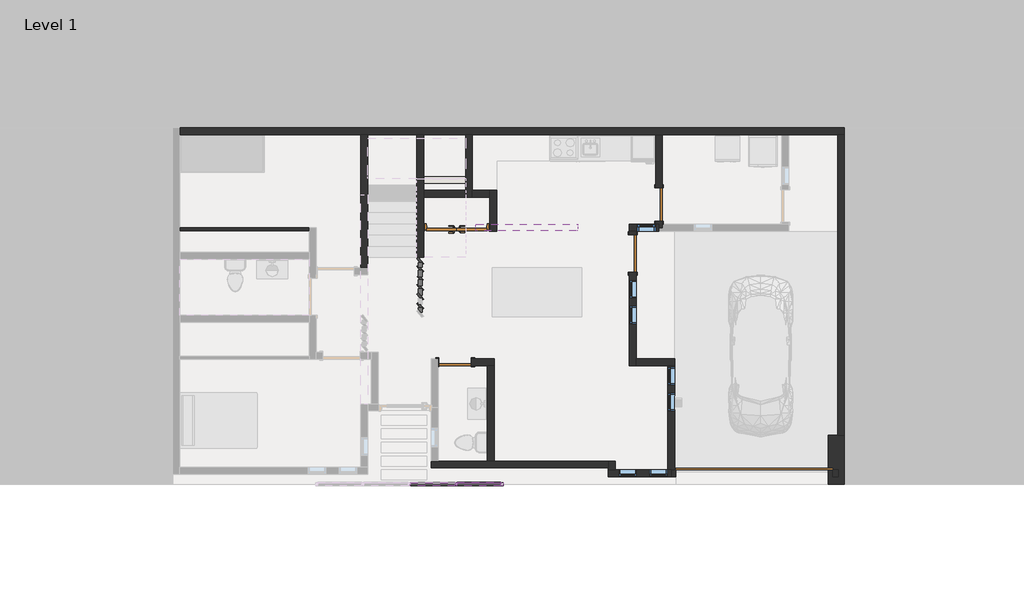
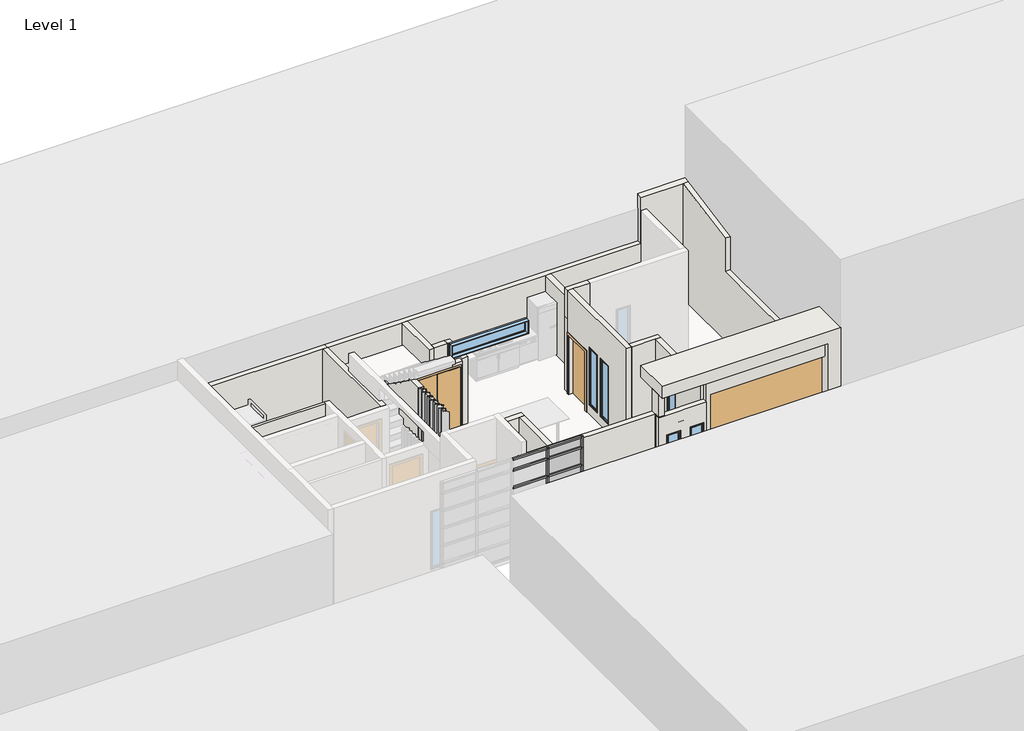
# One storey, part 2 of 3: 31 members, 23 walls, 11 plates, 8 windows, 5 doors.
"""IFC4 building model written with IfcOpenShell, lengths in millimetres."""

from ifc_helpers import new_model, si_unit, frame, origin, place, context, project, spatial, polyline, outline, extrude, faceted_brep, transform, mapped, element, save
from components import m_door_overhead_sectional_2400_x_2000mm_d75fed9d, m_door_passage_double_flush_1_50_45166c5d, m_single_flush_0813_x_2134mm_45de9fe4, m_single_flush_0915_x_2032mm_39b6ed43, m_single_flush_800_439f2f28, rectangular_mullion_45_1a2056f5, rectangular_mullion_50mm_x_150mm_d19166ad, rectangular_mullion_50mm_x_150mm_e900c828, rectangular_mullion_50mm_x_65mm_ff5aef03, rectangular_mullion_50mm_x_65mm_a82a1849, rectangular_mullion_50mm_x_65mm_891f7412, rectangular_mullion_50mm_x_65mm_8b285529, rectangular_mullion_50mm_x_65mm_56aac8fe, rectangular_mullion_50mm_x_65mm_799d5ca8, rectangular_mullion_50mm_x_65mm_d660201f, rectangular_mullion_50mm_x_65mm_3a6a0bf0, empty_system_panel_empty_7c5ddf91, empty_system_panel_empty_2b6e5872, empty_system_panel_empty_b25575e7, system_panel_glazed_61021ea4, system_panel_glazed_a4c32394, system_panel_glazed_e487c379, walls_1_walls_1_7c86b917, m_fixed_4c20de9f, m_fixed_e2bd5fef, m_fixed_2bd9e5b5

model = new_model("IFC4")

# Units and contexts
model_context = context("Model", 3, world=origin())
ifc_project = project(units=[si_unit("LENGTHUNIT", "METRE", prefix="MILLI")], contexts=[model_context])

# Site, building, storey
site = spatial("IfcSite", under=ifc_project)
building = spatial("IfcBuilding", under=site)
storey = spatial("IfcBuildingStorey", under=building, Name="Level 1", Elevation=180.0)

# Doors
placement = place(None, origin())
m_door_overhead_sectional_2400_x_2000mm_shape = m_door_overhead_sectional_2400_x_2000mm_d75fed9d(model_context)
element("IfcDoor", 1, ObjectType="M_Door-Overhead-Sectional : 2400 x 2000mm", at=placement, inside=storey, context=model_context, shape_type="MappedRepresentation", body=[
    mapped(m_door_overhead_sectional_2400_x_2000mm_shape, transform((7392.5516856, -5409.9818761, 180.0), x_axis=(-1.0, 0.0, 0.0), y_axis=(0.0, -1.0, 0.0), z_axis=(0.0, 0.0, 1.0))),
])
m_door_passage_double_flush_1_50_shape = m_door_passage_double_flush_1_50_45166c5d(model_context)
element("IfcDoor", 2, ObjectType="M_Door-Passage-Double-Flush : 1.50", at=placement, inside=storey, context=model_context, shape_type="MappedRepresentation", body=[
    mapped(m_door_passage_double_flush_1_50_shape, transform((84.8842801, 630.3681239, 180.0), x_axis=(1.0, 0.0, 0.0), y_axis=(0.0, 1.0, 0.0), z_axis=(0.0, 0.0, 1.0))),
])
m_single_flush_0813_x_2134mm_shape = m_single_flush_0813_x_2134mm_45de9fe4(model_context)
element("IfcDoor", 3, ObjectType="M_Single-Flush : 0813 x 2134mm", at=placement, inside=storey, context=model_context, shape_type="MappedRepresentation", body=[
    mapped(m_single_flush_0813_x_2134mm_shape, transform((5050.8624114, 1189.0181239, 180.0), x_axis=(0.0, -1.0, 0.0), y_axis=(1.0, 0.0, 0.0), z_axis=(0.0, 0.0, 1.0))),
])
m_single_flush_0915_x_2032mm_shape = m_single_flush_0915_x_2032mm_39b6ed43(model_context)
element("IfcDoor", 4, ObjectType="M_Single-Flush : 0915 x 2032mm", at=placement, inside=storey, context=model_context, shape_type="MappedRepresentation", body=[
    mapped(m_single_flush_0915_x_2032mm_shape, transform((4405.8624114, -13.4818761, 180.0), x_axis=(0.0, 1.0, 0.0), y_axis=(-1.0, 0.0, 0.0), z_axis=(0.0, 0.0, 1.0))),
])
m_single_flush_800_shape = m_single_flush_800_439f2f28(model_context)
element("IfcDoor", 5, ObjectType="M_Single-Flush : 800", at=placement, inside=storey, context=model_context, shape_type="MappedRepresentation", body=[
    mapped(m_single_flush_800_shape, transform((44.8842801, -2684.9818761, 180.0), x_axis=(-1.0, 0.0, 0.0), y_axis=(0.0, -1.0, 0.0), z_axis=(0.0, 0.0, 1.0))),
])

# Members
rectangular_mullion_45_shape = rectangular_mullion_45_1a2056f5(model_context)
element("IfcMember", 6, ObjectType="Rectangular Mullion : 45", at=placement, inside=storey, context=model_context, shape_type="MappedRepresentation", body=[
    mapped(rectangular_mullion_45_shape, transform((-815.1157199, -617.6485429, 180.0), x_axis=(0.0, -1.0, 0.0), y_axis=(-1.0, 0.0, 0.0), z_axis=(0.0, 0.0, -1.0))),
])
rectangular_mullion_50mm_x_150mm_shape = rectangular_mullion_50mm_x_150mm_d19166ad(model_context)
element("IfcMember", 7, ObjectType="Rectangular Mullion : 50mm x 150mm", at=placement, inside=storey, context=model_context, shape_type="MappedRepresentation", body=[
    mapped(rectangular_mullion_50mm_x_150mm_shape, transform((-815.1157199, -389.3152097, 180.0), x_axis=(0.0, -1.0, 0.0), y_axis=(-1.0, 0.0, 0.0), z_axis=(0.0, 0.0, -1.0))),
])
element("IfcMember", 8, ObjectType="Rectangular Mullion : 50mm x 150mm", at=placement, inside=storey, context=model_context, shape_type="MappedRepresentation", body=[
    mapped(rectangular_mullion_50mm_x_150mm_shape, transform((-815.1157199, -845.9818761, 180.0), x_axis=(0.0, -1.0, 0.0), y_axis=(-1.0, 0.0, 0.0), z_axis=(0.0, 0.0, -1.0))),
])
element("IfcMember", 9, ObjectType="Rectangular Mullion : 50mm x 150mm", at=placement, inside=storey, context=model_context, shape_type="MappedRepresentation", body=[
    mapped(rectangular_mullion_50mm_x_150mm_shape, transform((-815.1157199, -1074.3152094, 180.0), x_axis=(0.0, -1.0, 0.0), y_axis=(-1.0, 0.0, 0.0), z_axis=(0.0, 0.0, -1.0))),
])
element("IfcMember", 10, ObjectType="Rectangular Mullion : 50mm x 150mm", at=placement, inside=storey, context=model_context, shape_type="MappedRepresentation", body=[
    mapped(rectangular_mullion_50mm_x_150mm_shape, transform((-815.1157199, -1302.6485426, 180.0), x_axis=(0.0, -1.0, 0.0), y_axis=(-1.0, 0.0, 0.0), z_axis=(0.0, 0.0, -1.0))),
])
rectangular_mullion_50mm_x_150mm_2_shape = rectangular_mullion_50mm_x_150mm_e900c828(model_context)
element("IfcMember", 11, ObjectType="Rectangular Mullion : 50mm x 150mm", at=placement, inside=storey, context=model_context, shape_type="MappedRepresentation", body=[
    mapped(rectangular_mullion_50mm_x_150mm_2_shape, transform((-815.1157199, -160.9818761, 2560.0), x_axis=(0.0, 1.0, 0.0), y_axis=(-1.0, 0.0, 0.0), z_axis=(0.0, 0.0, 1.0))),
])
rectangular_mullion_50mm_x_65mm_shape = rectangular_mullion_50mm_x_65mm_ff5aef03(model_context)
element("IfcMember", 12, ObjectType="Rectangular Mullion : 50mm x 65mm", at=placement, inside=storey, context=model_context, shape_type="MappedRepresentation", body=[
    mapped(rectangular_mullion_50mm_x_65mm_shape, transform((1219.8842801, -5680.9818761, 180.0), x_axis=(1.0, 0.0, 0.0), y_axis=(0.0, -1.0, 0.0), z_axis=(0.0, 0.0, -1.0))),
])
element("IfcMember", 13, ObjectType="Rectangular Mullion : 50mm x 65mm", at=placement, inside=storey, context=model_context, shape_type="MappedRepresentation", body=[
    mapped(rectangular_mullion_50mm_x_65mm_shape, transform((1219.8842801, -5680.9818761, 780.0), x_axis=(1.0, 0.0, 0.0), y_axis=(0.0, -1.0, 0.0), z_axis=(0.0, 0.0, -1.0))),
])
element("IfcMember", 14, ObjectType="Rectangular Mullion : 50mm x 65mm", at=placement, inside=storey, context=model_context, shape_type="MappedRepresentation", body=[
    mapped(rectangular_mullion_50mm_x_65mm_shape, transform((1219.8842801, -5680.9818761, 1380.0), x_axis=(1.0, 0.0, 0.0), y_axis=(0.0, -1.0, 0.0), z_axis=(0.0, 0.0, -1.0))),
])
element("IfcMember", 15, ObjectType="Rectangular Mullion : 50mm x 65mm", at=placement, inside=storey, context=model_context, shape_type="MappedRepresentation", body=[
    mapped(rectangular_mullion_50mm_x_65mm_shape, transform((1219.8842801, -5680.9818761, 1980.0), x_axis=(1.0, 0.0, 0.0), y_axis=(0.0, -1.0, 0.0), z_axis=(0.0, 0.0, -1.0))),
])
element("IfcMember", 16, ObjectType="Rectangular Mullion : 50mm x 65mm", at=placement, inside=storey, context=model_context, shape_type="MappedRepresentation", body=[
    mapped(rectangular_mullion_50mm_x_65mm_shape, transform((1219.8842801, -5680.9818761, 2580.0), x_axis=(1.0, 0.0, 0.0), y_axis=(0.0, -1.0, 0.0), z_axis=(0.0, 0.0, -1.0))),
])
rectangular_mullion_50mm_x_65mm_2_shape = rectangular_mullion_50mm_x_65mm_a82a1849(model_context)
element("IfcMember", 17, ObjectType="Rectangular Mullion : 50mm x 65mm", at=placement, inside=storey, context=model_context, shape_type="MappedRepresentation", body=[
    mapped(rectangular_mullion_50mm_x_65mm_2_shape, transform((69.8842799, -5680.9818761, 180.0), x_axis=(1.0, 0.0, 0.0), y_axis=(0.0, -1.0, 0.0), z_axis=(0.0, 0.0, -1.0))),
])
element("IfcMember", 18, ObjectType="Rectangular Mullion : 50mm x 65mm", at=placement, inside=storey, context=model_context, shape_type="MappedRepresentation", body=[
    mapped(rectangular_mullion_50mm_x_65mm_2_shape, transform((69.8842799, -5680.9818761, 780.0), x_axis=(1.0, 0.0, 0.0), y_axis=(0.0, -1.0, 0.0), z_axis=(0.0, 0.0, -1.0))),
])
element("IfcMember", 19, ObjectType="Rectangular Mullion : 50mm x 65mm", at=placement, inside=storey, context=model_context, shape_type="MappedRepresentation", body=[
    mapped(rectangular_mullion_50mm_x_65mm_2_shape, transform((69.8842799, -5680.9818761, 1380.0), x_axis=(1.0, 0.0, 0.0), y_axis=(0.0, -1.0, 0.0), z_axis=(0.0, 0.0, -1.0))),
])
element("IfcMember", 20, ObjectType="Rectangular Mullion : 50mm x 65mm", at=placement, inside=storey, context=model_context, shape_type="MappedRepresentation", body=[
    mapped(rectangular_mullion_50mm_x_65mm_2_shape, transform((69.8842799, -5680.9818761, 1980.0), x_axis=(1.0, 0.0, 0.0), y_axis=(0.0, -1.0, 0.0), z_axis=(0.0, 0.0, -1.0))),
])
element("IfcMember", 21, ObjectType="Rectangular Mullion : 50mm x 65mm", at=placement, inside=storey, context=model_context, shape_type="MappedRepresentation", body=[
    mapped(rectangular_mullion_50mm_x_65mm_2_shape, transform((69.8842799, -5680.9818761, 2580.0), x_axis=(1.0, 0.0, 0.0), y_axis=(0.0, -1.0, 0.0), z_axis=(0.0, 0.0, -1.0))),
])
rectangular_mullion_50mm_x_65mm_3_shape = rectangular_mullion_50mm_x_65mm_891f7412(model_context)
element("IfcMember", 22, ObjectType="Rectangular Mullion : 50mm x 65mm", at=placement, inside=storey, context=model_context, shape_type="MappedRepresentation", body=[
    mapped(rectangular_mullion_50mm_x_65mm_3_shape, transform((69.8842799, -5680.9818761, 3180.0), x_axis=(1.0, 0.0, 0.0), y_axis=(0.0, -1.0, 0.0), z_axis=(0.0, 0.0, -1.0))),
])
rectangular_mullion_50mm_x_65mm_4_shape = rectangular_mullion_50mm_x_65mm_8b285529(model_context)
element("IfcMember", 23, ObjectType="Rectangular Mullion : 50mm x 65mm", at=placement, inside=storey, context=model_context, shape_type="MappedRepresentation", body=[
    mapped(rectangular_mullion_50mm_x_65mm_4_shape, transform((1219.8842801, -5680.9818761, 3180.0), x_axis=(1.0, 0.0, 0.0), y_axis=(0.0, -1.0, 0.0), z_axis=(0.0, 0.0, -1.0))),
])
rectangular_mullion_50mm_x_65mm_5_shape = rectangular_mullion_50mm_x_65mm_56aac8fe(model_context)
element("IfcMember", 24, ObjectType="Rectangular Mullion : 50mm x 65mm", at=placement, inside=storey, context=model_context, shape_type="MappedRepresentation", body=[
    mapped(rectangular_mullion_50mm_x_65mm_5_shape, transform((1169.8842801, -5680.9818761, 3574.3395716), x_axis=(0.0, 0.0, 1.0), y_axis=(0.0, -1.0, 0.0), z_axis=(1.0, 0.0, 0.0))),
])
element("IfcMember", 25, ObjectType="Rectangular Mullion : 50mm x 65mm", at=placement, inside=storey, context=model_context, shape_type="MappedRepresentation", body=[
    mapped(rectangular_mullion_50mm_x_65mm_5_shape, transform((94.8842799, -5680.9818761, 180.0), x_axis=(0.0, 0.0, -1.0), y_axis=(0.0, -1.0, 0.0), z_axis=(-1.0, 0.0, 0.0))),
])
rectangular_mullion_50mm_x_65mm_6_shape = rectangular_mullion_50mm_x_65mm_799d5ca8(model_context)
element("IfcMember", 26, ObjectType="Rectangular Mullion : 50mm x 65mm", at=placement, inside=storey, context=model_context, shape_type="MappedRepresentation", body=[
    mapped(rectangular_mullion_50mm_x_65mm_6_shape, transform((1169.8842801, -5680.9818761, 780.0), x_axis=(0.0, 0.0, 1.0), y_axis=(0.0, -1.0, 0.0), z_axis=(1.0, 0.0, 0.0))),
])
element("IfcMember", 27, ObjectType="Rectangular Mullion : 50mm x 65mm", at=placement, inside=storey, context=model_context, shape_type="MappedRepresentation", body=[
    mapped(rectangular_mullion_50mm_x_65mm_6_shape, transform((1169.8842801, -5680.9818761, 1380.0), x_axis=(0.0, 0.0, 1.0), y_axis=(0.0, -1.0, 0.0), z_axis=(1.0, 0.0, 0.0))),
])
element("IfcMember", 28, ObjectType="Rectangular Mullion : 50mm x 65mm", at=placement, inside=storey, context=model_context, shape_type="MappedRepresentation", body=[
    mapped(rectangular_mullion_50mm_x_65mm_6_shape, transform((1169.8842801, -5680.9818761, 1980.0), x_axis=(0.0, 0.0, 1.0), y_axis=(0.0, -1.0, 0.0), z_axis=(1.0, 0.0, 0.0))),
])
element("IfcMember", 29, ObjectType="Rectangular Mullion : 50mm x 65mm", at=placement, inside=storey, context=model_context, shape_type="MappedRepresentation", body=[
    mapped(rectangular_mullion_50mm_x_65mm_6_shape, transform((1169.8842801, -5680.9818761, 2580.0), x_axis=(0.0, 0.0, 1.0), y_axis=(0.0, -1.0, 0.0), z_axis=(1.0, 0.0, 0.0))),
])
element("IfcMember", 30, ObjectType="Rectangular Mullion : 50mm x 65mm", at=placement, inside=storey, context=model_context, shape_type="MappedRepresentation", body=[
    mapped(rectangular_mullion_50mm_x_65mm_6_shape, transform((1169.8842801, -5680.9818761, 3180.0), x_axis=(0.0, 0.0, 1.0), y_axis=(0.0, -1.0, 0.0), z_axis=(1.0, 0.0, 0.0))),
])
rectangular_mullion_50mm_x_65mm_7_shape = rectangular_mullion_50mm_x_65mm_d660201f(model_context)
element("IfcMember", 31, ObjectType="Rectangular Mullion : 50mm x 65mm", at=placement, inside=storey, context=model_context, shape_type="MappedRepresentation", body=[
    mapped(rectangular_mullion_50mm_x_65mm_7_shape, transform((44.8842799, -5680.9818761, 3574.3395716), x_axis=(0.0, 0.0, 1.0), y_axis=(0.0, -1.0, 0.0), z_axis=(1.0, 0.0, 0.0))),
])
rectangular_mullion_50mm_x_65mm_8_shape = rectangular_mullion_50mm_x_65mm_3a6a0bf0(model_context)
element("IfcMember", 32, ObjectType="Rectangular Mullion : 50mm x 65mm", at=placement, inside=storey, context=model_context, shape_type="MappedRepresentation", body=[
    mapped(rectangular_mullion_50mm_x_65mm_8_shape, transform((44.8842799, -5680.9818761, 780.0), x_axis=(0.0, 0.0, 1.0), y_axis=(0.0, -1.0, 0.0), z_axis=(1.0, 0.0, 0.0))),
])
element("IfcMember", 33, ObjectType="Rectangular Mullion : 50mm x 65mm", at=placement, inside=storey, context=model_context, shape_type="MappedRepresentation", body=[
    mapped(rectangular_mullion_50mm_x_65mm_8_shape, transform((44.8842799, -5680.9818761, 1380.0), x_axis=(0.0, 0.0, 1.0), y_axis=(0.0, -1.0, 0.0), z_axis=(1.0, 0.0, 0.0))),
])
element("IfcMember", 34, ObjectType="Rectangular Mullion : 50mm x 65mm", at=placement, inside=storey, context=model_context, shape_type="MappedRepresentation", body=[
    mapped(rectangular_mullion_50mm_x_65mm_8_shape, transform((44.8842799, -5680.9818761, 1980.0), x_axis=(0.0, 0.0, 1.0), y_axis=(0.0, -1.0, 0.0), z_axis=(1.0, 0.0, 0.0))),
])
element("IfcMember", 35, ObjectType="Rectangular Mullion : 50mm x 65mm", at=placement, inside=storey, context=model_context, shape_type="MappedRepresentation", body=[
    mapped(rectangular_mullion_50mm_x_65mm_8_shape, transform((44.8842799, -5680.9818761, 2580.0), x_axis=(0.0, 0.0, 1.0), y_axis=(0.0, -1.0, 0.0), z_axis=(1.0, 0.0, 0.0))),
])
element("IfcMember", 36, ObjectType="Rectangular Mullion : 50mm x 65mm", at=placement, inside=storey, context=model_context, shape_type="MappedRepresentation", body=[
    mapped(rectangular_mullion_50mm_x_65mm_8_shape, transform((44.8842799, -5680.9818761, 3180.0), x_axis=(0.0, 0.0, 1.0), y_axis=(0.0, -1.0, 0.0), z_axis=(1.0, 0.0, 0.0))),
])

# Plates
empty_system_panel_empty_shape = empty_system_panel_empty_7c5ddf91(model_context)
element("IfcPlate", 37, ObjectType="Empty System Panel : Empty", at=placement, inside=storey, context=model_context, shape_type="MappedRepresentation", body=[
    mapped(empty_system_panel_empty_shape, transform((-815.1157199, -294.5950908, 180.0), x_axis=(0.0, -1.0, 0.0), y_axis=(1.0, 0.0, 0.0), z_axis=(0.0, 0.0, 1.0))),
])
element("IfcPlate", 38, ObjectType="Empty System Panel : Empty", at=placement, inside=storey, context=model_context, shape_type="MappedRepresentation", body=[
    mapped(empty_system_panel_empty_shape, transform((-815.1157199, -1397.3686615, 180.0), x_axis=(0.0, -1.0, 0.0), y_axis=(1.0, 0.0, 0.0), z_axis=(0.0, 0.0, 1.0))),
])
empty_system_panel_empty_2_shape = empty_system_panel_empty_2b6e5872(model_context)
element("IfcPlate", 39, ObjectType="Empty System Panel : Empty", at=placement, inside=storey, context=model_context, shape_type="MappedRepresentation", body=[
    mapped(empty_system_panel_empty_2_shape, transform((-815.1157199, -505.2507546, 180.0), x_axis=(0.0, -1.0, 0.0), y_axis=(1.0, 0.0, 0.0), z_axis=(0.0, 0.0, 1.0))),
])
element("IfcPlate", 40, ObjectType="Empty System Panel : Empty", at=placement, inside=storey, context=model_context, shape_type="MappedRepresentation", body=[
    mapped(empty_system_panel_empty_2_shape, transform((-815.1157199, -730.0463312, 180.0), x_axis=(0.0, -1.0, 0.0), y_axis=(1.0, 0.0, 0.0), z_axis=(0.0, 0.0, 1.0))),
])
empty_system_panel_empty_3_shape = empty_system_panel_empty_b25575e7(model_context)
element("IfcPlate", 41, ObjectType="Empty System Panel : Empty", at=placement, inside=storey, context=model_context, shape_type="MappedRepresentation", body=[
    mapped(empty_system_panel_empty_3_shape, transform((-815.1157199, -960.1485428, 180.0), x_axis=(0.0, -1.0, 0.0), y_axis=(1.0, 0.0, 0.0), z_axis=(0.0, 0.0, 1.0))),
])
system_panel_glazed_shape = system_panel_glazed_61021ea4(model_context)
element("IfcPlate", 42, ObjectType="System Panel : Glazed", at=placement, inside=storey, context=model_context, shape_type="MappedRepresentation", body=[
    mapped(system_panel_glazed_shape, transform((632.38428, -5680.9818761, 230.0), x_axis=(1.0, 0.0, 0.0), y_axis=(0.0, 1.0, 0.0), z_axis=(0.0, 0.0, 1.0))),
])
system_panel_glazed_2_shape = system_panel_glazed_a4c32394(model_context)
element("IfcPlate", 43, ObjectType="System Panel : Glazed", at=placement, inside=storey, context=model_context, shape_type="MappedRepresentation", body=[
    mapped(system_panel_glazed_2_shape, transform((632.38428, -5680.9818761, 805.0), x_axis=(1.0, 0.0, 0.0), y_axis=(0.0, 1.0, 0.0), z_axis=(0.0, 0.0, 1.0))),
])
element("IfcPlate", 44, ObjectType="System Panel : Glazed", at=placement, inside=storey, context=model_context, shape_type="MappedRepresentation", body=[
    mapped(system_panel_glazed_2_shape, transform((632.38428, -5680.9818761, 1405.0), x_axis=(1.0, 0.0, 0.0), y_axis=(0.0, 1.0, 0.0), z_axis=(0.0, 0.0, 1.0))),
])
element("IfcPlate", 45, ObjectType="System Panel : Glazed", at=placement, inside=storey, context=model_context, shape_type="MappedRepresentation", body=[
    mapped(system_panel_glazed_2_shape, transform((632.38428, -5680.9818761, 2005.0), x_axis=(1.0, 0.0, 0.0), y_axis=(0.0, 1.0, 0.0), z_axis=(0.0, 0.0, 1.0))),
])
element("IfcPlate", 46, ObjectType="System Panel : Glazed", at=placement, inside=storey, context=model_context, shape_type="MappedRepresentation", body=[
    mapped(system_panel_glazed_2_shape, transform((632.38428, -5680.9818761, 2605.0), x_axis=(1.0, 0.0, 0.0), y_axis=(0.0, 1.0, 0.0), z_axis=(0.0, 0.0, 1.0))),
])
system_panel_glazed_3_shape = system_panel_glazed_e487c379(model_context)
element("IfcPlate", 47, ObjectType="System Panel : Glazed", at=placement, inside=storey, context=model_context, shape_type="MappedRepresentation", body=[
    mapped(system_panel_glazed_3_shape, transform((632.38428, -5680.9818761, 3205.0), x_axis=(1.0, 0.0, 0.0), y_axis=(0.0, 1.0, 0.0), z_axis=(0.0, 0.0, 1.0))),
])

# Walls
element("IfcWall", 48, ObjectType="Generic - 170", at=placement, inside=storey, context=model_context, shape_type="Brep", body=[
    faceted_brep([(-6724.1375886, 2899.0181239, 180.0), (-2270.1157199, 2899.0181239, 180.0), (-2100.1157199, 2899.0181239, 180.0), (299.8842801, 2899.0181239, 180.0), (469.8842801, 2899.0181239, 180.0), (4965.8624114, 2899.0181239, 180.0), (5135.8624114, 2899.0181239, 180.0), (8065.8624114, 2899.0181239, 180.0), (8235.8624114, 2899.0181239, 180.0), (9435.8624114, 2899.0181239, 180.0), (9605.8624114, 2899.0181239, 180.0), (9605.8624114, 2899.0181239, 4150.8110252), (9435.8624114, 2899.0181239, 4150.8110252), (8065.8624114, 2899.0181239, 4150.8110252), (8065.8624114, 2899.0181239, 3700.0), (8065.8624114, 2899.0181239, 2560.0), (5135.8624114, 2899.0181239, 2560.0), (4965.8624114, 2899.0181239, 2560.0), (469.8842801, 2899.0181239, 2560.0), (299.8842801, 2899.0181239, 2560.0), (-2100.1157199, 2899.0181239, 2560.0), (-2270.1157199, 2899.0181239, 2560.0), (-6724.1375886, 2899.0181239, 2560.0), (-6724.1375886, 3069.0181239, 180.0), (-6724.1375886, 3069.0181239, 2560.0), (-2100.1157199, 3069.0181239, 2560.0), (8065.8624114, 3069.0181239, 2560.0), (8065.8624114, 3069.0181239, 4183.2847008), (9605.8624114, 3069.0181239, 4183.2847008), (9605.8624114, 3069.0181239, 180.0)], [[[0, 1, 2, 3, 4, 5, 6, 7, 8, 9, 10, 11, 12, 13, 14, 15, 16, 17, 18, 19, 20, 21, 22]], [[23, 24, 25, 26, 27, 28, 29]], [[10, 9, 8, 7, 6, 5, 4, 3, 2, 1, 0, 23, 29]], [[0, 22, 24, 23]], [[11, 10, 29, 28]], [[20, 19, 18, 17, 16, 15, 26, 25]], [[22, 21, 20, 25, 24]], [[26, 15, 14, 13, 27]], [[13, 12, 11, 28, 27]]]),
])
element("IfcWall", 49, ObjectType="Generic - 170", at=placement, inside=storey, context=model_context, shape_type="SweptSolid", body=[
    extrude(outline(polyline([(2899.0181239, 180.0), (-4480.9818761, 180.0), (-4480.9818761, 2560.0), (539.0181239, 2560.0), (539.0181239, 3700.0), (2899.0181239, 4150.8110252), (2899.0181239, 180.0)])), frame((9435.8624114, 0.0, 0.0), z_axis=(1.0, 0.0, 0.0), x_axis=(0.0, 1.0, 0.0)), (0.0, 0.0, 1.0), 170.0),
])
element("IfcWall", 50, ObjectType="Generic - 170", at=placement, inside=storey, context=model_context, shape_type="Brep", body=[
    faceted_brep([(5349.7097075, -5324.9818761, 180.0), (5349.7097075, -5324.9818761, 4040.0), (9455.8624114, -5324.9818761, 4040.0), (9455.8624114, -5324.9818761, 180.0), (9320.3936637, -5324.9818761, 180.0), (9320.3936637, -5324.9818761, 3380.0), (5464.7097075, -5324.9818761, 3380.0), (5464.7097075, -5324.9818761, 180.0), (5434.7097075, -5324.9818761, 180.0), (5349.7097075, -5494.9818761, 4040.0), (5349.7097075, -5494.9818761, 180.0), (5464.7097075, -5494.9818761, 180.0), (5464.7097075, -5494.9818761, 3380.0), (9320.3936637, -5494.9818761, 3380.0), (9320.3936637, -5494.9818761, 180.0), (9455.8624114, -5494.9818761, 180.0), (9455.8624114, -5494.9818761, 4040.0)], [[[0, 1, 2, 3, 4, 5, 6, 7, 8]], [[9, 10, 11, 12, 13, 14, 15, 16]], [[10, 0, 8, 7, 11]], [[3, 15, 14, 4]], [[1, 0, 10, 9]], [[2, 1, 9, 16]], [[3, 2, 16, 15]], [[6, 12, 11, 7]], [[12, 6, 5, 13]], [[13, 5, 4, 14]]]),
])
element("IfcWall", 51, ObjectType="Generic - 170", at=placement, inside=storey, context=model_context, shape_type="SweptSolid", body=[
    extrude(outline(polyline([(782.5181239, 2314.0), (782.5181239, 180.0), (624.0181239, 180.0), (624.0181239, 2560.0), (2899.0181239, 2560.0), (2899.0181239, 180.0), (1595.5181239, 180.0), (1595.5181239, 2314.0), (782.5181239, 2314.0)])), frame((4965.8624114, 0.0, 0.0), z_axis=(1.0, 0.0, 0.0), x_axis=(0.0, 1.0, 0.0)), (0.0, 0.0, 1.0), 170.0),
])
element("IfcWall", 52, ObjectType="Generic - 170", at=placement, inside=storey, context=model_context, shape_type="Brep", body=[
    faceted_brep([(5349.7097075, -5324.9818761, 180.0), (3975.8624114, -5324.9818761, 180.0), (3805.8624114, -5324.9818761, 180.0), (3805.8624114, -5324.9818761, 3160.0), (5349.7097075, -5324.9818761, 3160.0), (5264.7097075, -5324.9818761, 485.0), (5264.7097075, -5324.9818761, 2485.0), (4814.7097075, -5324.9818761, 2485.0), (4814.7097075, -5324.9818761, 485.0), (4509.7969938, -5324.9818761, 485.0), (4509.7969938, -5324.9818761, 2485.0), (4059.7969938, -5324.9818761, 2485.0), (4059.7969938, -5324.9818761, 485.0), (5349.7097075, -5494.9818761, 180.0), (5349.7097075, -5494.9818761, 3160.0), (3805.8624114, -5494.9818761, 3160.0), (3805.8624114, -5494.9818761, 180.0), (5264.7097075, -5494.9818761, 485.0), (4814.7097075, -5494.9818761, 485.0), (4814.7097075, -5494.9818761, 2485.0), (5264.7097075, -5494.9818761, 2485.0), (4509.7969938, -5494.9818761, 485.0), (4059.7969938, -5494.9818761, 485.0), (4059.7969938, -5494.9818761, 2485.0), (4509.7969938, -5494.9818761, 2485.0)], [[[0, 1, 2, 3, 4], [5, 6, 7, 8], [9, 10, 11, 12]], [[13, 14, 15, 16], [17, 18, 19, 20], [21, 22, 23, 24]], [[2, 1, 0, 13, 16]], [[4, 3, 15, 14]], [[0, 4, 14, 13]], [[6, 5, 17, 20]], [[7, 6, 20, 19]], [[8, 7, 19, 18]], [[5, 8, 18, 17]], [[10, 9, 21, 24]], [[11, 10, 24, 23]], [[12, 11, 23, 22]], [[9, 12, 22, 21]], [[3, 2, 16, 15]]]),
])
element("IfcWall", 53, ObjectType="Generic - 170", at=placement, inside=storey, context=model_context, shape_type="Brep", body=[
    faceted_brep([(299.8842801, 2899.0181239, 180.0), (299.8842801, 1876.5181239, 180.0), (299.8842801, 1706.5181239, 180.0), (299.8842801, 1539.0181239, 180.0), (299.8842801, 1369.0181239, 180.0), (299.8842801, 1369.0181239, 1795.7142857), (299.8842801, 1369.0181239, 2560.0), (299.8842801, 2899.0181239, 2560.0), (469.8842801, 2899.0181239, 180.0), (469.8842801, 2899.0181239, 2560.0), (469.8842801, 1539.0181239, 2560.0), (469.8842801, 1369.0181239, 2560.0), (469.8842801, 1369.0181239, 180.0), (469.8842801, 1539.0181239, 180.0)], [[[0, 1, 2, 3, 4, 5, 6, 7]], [[8, 9, 10, 11, 12, 13]], [[4, 3, 2, 1, 0, 8, 13, 12]], [[7, 6, 11, 10, 9]], [[0, 7, 9, 8]], [[4, 12, 11, 6, 5]]]),
])
element("IfcWall", 54, ObjectType="Generic - 170", at=placement, inside=storey, context=model_context, shape_type="SweptSolid", body=[
    extrude(outline(polyline([(2474.2857143, 899.8842801), (2474.2857143, -730.1157199), (180.0, -730.1157199), (180.0, -715.1157199), (2380.0, -715.1157199), (2380.0, 884.8842801), (180.0, 884.8842801), (180.0, 899.8842801), (2474.2857143, 899.8842801)])), frame((0.0, 539.0181239, 0.0), z_axis=(0.0, 1.0, 0.0), x_axis=(0.0, 0.0, 1.0)), (0.0, 0.0, 1.0), 170.0),
])
element("IfcWall", 55, ObjectType="Generic - 170", at=placement, inside=storey, context=model_context, shape_type="Brep", body=[
    faceted_brep([(-730.1157199, -105.9818761, 180.0), (-730.1157199, 539.0181239, 180.0), (-730.1157199, 709.0181239, 180.0), (-730.1157199, 1369.0181239, 180.0), (-730.1157199, 1539.0181239, 180.0), (-730.1157199, 1706.5181239, 180.0), (-730.1157199, 1876.5181239, 180.0), (-730.1157199, 2899.0181239, 180.0), (-730.1157199, 2899.0181239, 1549.8978653), (-730.1157199, 2845.5188752, 1572.8571429), (-730.1157199, 1721.5181239, 1572.8571429), (-730.1157199, 399.453692, 2519.0673116), (-730.1157199, 399.453692, 2560.0), (-730.1157199, -105.9818761, 2560.0), (-900.1157199, -105.9818761, 180.0), (-900.1157199, -105.9818761, 2560.0), (-900.1157199, 399.453692, 2560.0), (-900.1157199, 399.453692, 2519.0673116), (-900.1157199, 1721.5181239, 1572.8571429), (-900.1157199, 2845.5188752, 1572.8571429), (-900.1157199, 2899.0181239, 1549.8978653), (-900.1157199, 2899.0181239, 180.0)], [[[0, 1, 2, 3, 4, 5, 6, 7, 8, 9, 10, 11, 12, 13]], [[14, 15, 16, 17, 18, 19, 20, 21]], [[7, 6, 5, 4, 3, 2, 1, 0, 14, 21]], [[8, 7, 21, 20]], [[13, 12, 16, 15]], [[0, 13, 15, 14]], [[9, 8, 20, 19]], [[12, 11, 17, 16]], [[10, 9, 19, 18]], [[11, 10, 18, 17]]]),
])
element("IfcWall", 56, ObjectType="Generic - 170", at=placement, inside=storey, context=model_context, shape_type="SweptSolid", body=[
    extrude(outline(polyline([(299.8842801, 1369.0181239), (-730.1157199, 1369.0181239), (-730.1157199, 1539.0181239), (299.8842801, 1539.0181239), (299.8842801, 1369.0181239)])), frame((0.0, 0.0, 180.0), z_axis=(0.0, 0.0, 1.0), x_axis=(1.0, 0.0, 0.0)), (0.0, 0.0, 1.0), 1615.7142857),
])
element("IfcWall", 57, ObjectType="Generic - 170", at=placement, inside=storey, context=model_context, shape_type="Brep", body=[
    faceted_brep([(1069.8842801, 539.0181239, 180.0), (1069.8842801, 1539.0181239, 180.0), (1069.8842801, 1539.0181239, 2560.0), (1069.8842801, 539.0181239, 2560.0), (899.8842801, 539.0181239, 180.0), (899.8842801, 539.0181239, 2474.2857143), (899.8842801, 539.0181239, 2560.0), (899.8842801, 1369.0181239, 2560.0), (899.8842801, 1539.0181239, 2560.0), (899.8842801, 1539.0181239, 180.0), (899.8842801, 1369.0181239, 180.0), (899.8842801, 709.0181239, 180.0)], [[[0, 1, 2, 3]], [[4, 5, 6, 7, 8, 9, 10, 11]], [[1, 0, 4, 11, 10, 9]], [[3, 2, 8, 7, 6]], [[2, 1, 9, 8]], [[0, 3, 6, 5, 4]]]),
])
element("IfcWall", 58, ObjectType="Generic - 170", at=placement, inside=storey, context=model_context, shape_type="SweptSolid", body=[
    extrude(outline(polyline([(469.8842801, 1539.0181239), (899.8842801, 1539.0181239), (899.8842801, 1369.0181239), (469.8842801, 1369.0181239), (469.8842801, 1539.0181239)])), frame((0.0, 0.0, 180.0), z_axis=(0.0, 0.0, 1.0), x_axis=(1.0, 0.0, 0.0)), (0.0, 0.0, 1.0), 2380.0),
])
element("IfcWall", 59, ObjectType="Generic - 170", at=placement, inside=storey, context=model_context, shape_type="SweptSolid", body=[
    extrude(outline(polyline([(-2100.1157199, 2899.0181239), (-2100.1157199, -365.9818761), (-2270.1157199, -365.9818761), (-2270.1157199, 2899.0181239), (-2100.1157199, 2899.0181239)])), frame((0.0, 0.0, 180.0), z_axis=(0.0, 0.0, 1.0), x_axis=(1.0, 0.0, 0.0)), (0.0, 0.0, 1.0), 2380.0),
])
element("IfcWall", 60, ObjectType="Generic - 170", at=placement, inside=storey, context=model_context, shape_type="Brep", body=[
    faceted_brep([(4320.8624114, -2769.9818761, 3700.0), (4320.8624114, 539.0181239, 3700.0), (4320.8624114, 539.0181239, 2700.0), (4320.8624114, 539.0181239, 180.0), (4320.8624114, 444.0181239, 180.0), (4320.8624114, 444.0181239, 2212.0), (4320.8624114, -470.9818761, 2212.0), (4320.8624114, -470.9818761, 180.0), (4320.8624114, -2769.9818761, 180.0), (4320.8624114, -1118.4818761, 485.0), (4320.8624114, -668.4818761, 485.0), (4320.8624114, -668.4818761, 2485.0), (4320.8624114, -1118.4818761, 2485.0), (4320.8624114, -1745.9818761, 485.0), (4320.8624114, -1295.9818761, 485.0), (4320.8624114, -1295.9818761, 2485.0), (4320.8624114, -1745.9818761, 2485.0), (4490.8624114, 539.0181239, 3700.0), (4490.8624114, -2599.9818761, 3700.0), (4490.8624114, -2769.9818761, 3700.0), (4490.8624114, -2769.9818761, 180.0), (4490.8624114, -2599.9818761, 180.0), (4490.8624114, -470.9818761, 180.0), (4490.8624114, -470.9818761, 2212.0), (4490.8624114, 444.0181239, 2212.0), (4490.8624114, 444.0181239, 180.0), (4490.8624114, 539.0181239, 180.0), (4490.8624114, -1118.4818761, 485.0), (4490.8624114, -1118.4818761, 2485.0), (4490.8624114, -668.4818761, 2485.0), (4490.8624114, -668.4818761, 485.0), (4490.8624114, -1745.9818761, 485.0), (4490.8624114, -1745.9818761, 2485.0), (4490.8624114, -1295.9818761, 2485.0), (4490.8624114, -1295.9818761, 485.0)], [[[0, 1, 2, 3, 4, 5, 6, 7, 8], [9, 10, 11, 12], [13, 14, 15, 16]], [[17, 18, 19, 20, 21, 22, 23, 24, 25, 26], [27, 28, 29, 30], [31, 32, 33, 34]], [[3, 26, 25, 4]], [[20, 8, 7, 22, 21]], [[1, 0, 19, 18, 17]], [[0, 8, 20, 19]], [[24, 5, 4, 25]], [[5, 24, 23, 6]], [[6, 23, 22, 7]], [[28, 27, 9, 12]], [[29, 28, 12, 11]], [[30, 29, 11, 10]], [[27, 30, 10, 9]], [[32, 31, 13, 16]], [[33, 32, 16, 15]], [[34, 33, 15, 14]], [[31, 34, 14, 13]], [[1, 17, 26, 3, 2]]]),
])
element("IfcWall", 61, ObjectType="Generic - 170", at=placement, inside=storey, context=model_context, shape_type="Brep", body=[
    faceted_brep([(4490.8624114, -2769.9818761, 180.0), (5264.7097075, -2769.9818761, 180.0), (5434.7097075, -2769.9818761, 180.0), (5434.7097075, -2769.9818761, 3700.0), (5264.7097075, -2769.9818761, 3700.0), (4490.8624114, -2769.9818761, 3700.0), (4490.8624114, -2599.9818761, 180.0), (4490.8624114, -2599.9818761, 3700.0), (5434.7097075, -2599.9818761, 3700.0), (5434.7097075, -2599.9818761, 180.0)], [[[0, 1, 2, 3, 4, 5]], [[6, 7, 8, 9]], [[2, 1, 0, 6, 9]], [[5, 4, 3, 8, 7]], [[0, 5, 7, 6]], [[3, 2, 9, 8]]]),
])
element("IfcWall", 62, ObjectType="Generic - 170", at=placement, inside=storey, context=model_context, shape_type="Brep", body=[
    faceted_brep([(5264.7097075, -2769.9818761, 180.0), (5264.7097075, -5324.9818761, 180.0), (5264.7097075, -5324.9818761, 3700.0), (5264.7097075, -2769.9818761, 3700.0), (5264.7097075, -3885.9818761, 2485.0), (5264.7097075, -3885.9818761, 485.0), (5264.7097075, -3435.9818761, 485.0), (5264.7097075, -3435.9818761, 2485.0), (5264.7097075, -3245.9818761, 2485.0), (5264.7097075, -3245.9818761, 485.0), (5264.7097075, -2795.9818761, 485.0), (5264.7097075, -2795.9818761, 2485.0), (5434.7097075, -5324.9818761, 180.0), (5434.7097075, -2769.9818761, 180.0), (5434.7097075, -2769.9818761, 3700.0), (5434.7097075, -5324.9818761, 3700.0), (5434.7097075, -3885.9818761, 485.0), (5434.7097075, -3885.9818761, 2485.0), (5434.7097075, -3435.9818761, 2485.0), (5434.7097075, -3435.9818761, 485.0), (5434.7097075, -3245.9818761, 485.0), (5434.7097075, -3245.9818761, 2485.0), (5434.7097075, -2795.9818761, 2485.0), (5434.7097075, -2795.9818761, 485.0), (5349.7097075, -5324.9818761, 180.0)], [[[0, 1, 2, 3], [4, 5, 6, 7], [8, 9, 10, 11]], [[12, 13, 14, 15], [16, 17, 18, 19], [20, 21, 22, 23]], [[1, 0, 13, 12, 24]], [[3, 2, 15, 14]], [[0, 3, 14, 13]], [[17, 16, 5, 4]], [[18, 17, 4, 7]], [[19, 18, 7, 6]], [[16, 19, 6, 5]], [[20, 9, 8, 21]], [[21, 8, 11, 22]], [[9, 20, 23, 10]], [[10, 23, 22, 11]], [[2, 1, 24, 12, 15]]]),
])
element("IfcWall", 63, ObjectType="Generic - 170", at=placement, inside=storey, context=model_context, shape_type="Brep", body=[
    faceted_brep([(-375.1157199, -2769.9818761, 180.0), (-355.1157199, -2769.9818761, 180.0), (-355.1157199, -2769.9818761, 2280.0), (444.8842801, -2769.9818761, 2280.0), (444.8842801, -2769.9818761, 180.0), (834.8842801, -2769.9818761, 180.0), (1004.8842801, -2769.9818761, 180.0), (1004.8842801, -2769.9818761, 2560.0), (834.8842801, -2769.9818761, 2560.0), (-375.1157199, -2769.9818761, 2560.0), (-355.1157199, -2599.9818761, 2280.0), (-355.1157199, -2599.9818761, 180.0), (-375.1157199, -2599.9818761, 180.0), (-375.1157199, -2599.9818761, 2560.0), (1004.8842801, -2599.9818761, 2560.0), (1004.8842801, -2599.9818761, 180.0), (444.8842801, -2599.9818761, 180.0), (444.8842801, -2599.9818761, 2280.0)], [[[0, 1, 2, 3, 4, 5, 6, 7, 8, 9]], [[10, 11, 12, 13, 14, 15, 16, 17]], [[16, 15, 6, 5, 4]], [[12, 11, 1, 0]], [[9, 8, 7, 14, 13]], [[0, 9, 13, 12]], [[7, 6, 15, 14]], [[2, 1, 11, 10]], [[3, 2, 10, 17]], [[4, 3, 17, 16]]]),
])
element("IfcWall", 64, ObjectType="Generic - 170", at=placement, inside=storey, context=model_context, shape_type="SweptSolid", body=[
    extrude(outline(polyline([(834.8842801, -5109.9818761), (834.8842801, -2769.9818761), (1004.8842801, -2769.9818761), (1004.8842801, -5109.9818761), (834.8842801, -5109.9818761)])), frame((0.0, 0.0, 180.0), z_axis=(0.0, 0.0, 1.0), x_axis=(1.0, 0.0, 0.0)), (0.0, 0.0, 1.0), 2380.0),
])
element("IfcWall", 65, ObjectType="Generic - 170", at=placement, inside=storey, context=model_context, shape_type="Brep", body=[
    faceted_brep([(4320.8624114, 539.0181239, 180.0), (4490.8624114, 539.0181239, 180.0), (5050.8624114, 539.0181239, 180.0), (5050.8624114, 539.0181239, 3700.0), (4490.8624114, 539.0181239, 3700.0), (4320.8624114, 539.0181239, 3700.0), (4320.8624114, 539.0181239, 3180.0), (4320.8624114, 539.0181239, 2700.0), (4965.8624114, 539.0181239, 2485.0), (4965.8624114, 539.0181239, 485.0), (4515.8624114, 539.0181239, 485.0), (4515.8624114, 539.0181239, 2485.0), (5050.8624114, 709.0181239, 180.0), (4320.8624114, 709.0181239, 180.0), (4320.8624114, 709.0181239, 2700.0), (4320.8624114, 709.0181239, 3180.0), (4320.8624114, 709.0181239, 3700.0), (5050.8624114, 709.0181239, 3700.0), (4965.8624114, 709.0181239, 485.0), (4965.8624114, 709.0181239, 2485.0), (4515.8624114, 709.0181239, 2485.0), (4515.8624114, 709.0181239, 485.0)], [[[0, 1, 2, 3, 4, 5, 6, 7], [8, 9, 10, 11]], [[12, 13, 14, 15, 16, 17], [18, 19, 20, 21]], [[2, 1, 0, 13, 12]], [[3, 2, 12, 17]], [[5, 4, 3, 17, 16]], [[18, 9, 8, 19]], [[19, 8, 11, 20]], [[20, 11, 10, 21]], [[9, 18, 21, 10]], [[0, 7, 14, 13]], [[5, 16, 15, 14, 7, 6]]]),
])
element("IfcWall", 66, ObjectType="Generic - 170", at=placement, inside=storey, context=model_context, shape_type="SweptSolid", body=[
    extrude(outline(polyline([(-730.1157199, 1876.5181239), (299.8842801, 1876.5181239), (299.8842801, 1706.5181239), (-730.1157199, 1706.5181239), (-730.1157199, 1876.5181239)])), frame((0.0, 0.0, 180.0), z_axis=(0.0, 0.0, 1.0), x_axis=(1.0, 0.0, 0.0)), (0.0, 0.0, 1.0), 1000.0),
])
element("IfcWall", 67, ObjectType="Generic - 170", at=placement, inside=storey, context=model_context, shape_type="Brep", body=[
    faceted_brep([(3975.8624114, -5324.9818761, 180.0), (3975.8624114, -5109.9818761, 180.0), (3975.8624114, -5109.9818761, 3940.0), (3975.8624114, -5494.9818761, 3940.0), (3975.8624114, -5494.9818761, 3180.0), (3975.8624114, -5324.9818761, 3180.0), (3805.8624114, -5324.9818761, 180.0), (3805.8624114, -5324.9818761, 3160.0), (3805.8624114, -5324.9818761, 3180.0), (3805.8624114, -5494.9818761, 3180.0), (3805.8624114, -5494.9818761, 3940.0), (3805.8624114, -5109.9818761, 3940.0), (3805.8624114, -5109.9818761, 180.0)], [[[0, 1, 2, 3, 4, 5]], [[6, 7, 8, 9, 10, 11, 12]], [[1, 0, 6, 12]], [[2, 1, 12, 11]], [[3, 2, 11, 10]], [[4, 9, 8, 5]], [[0, 5, 8, 7, 6]], [[4, 3, 10, 9]]]),
])
element("IfcWall", 68, ObjectType="Generic - 171", at=placement, inside=storey, context=model_context, shape_type="Brep", body=[
    faceted_brep([(3805.8624114, -5109.9818761, 180.0), (1004.8842801, -5109.9818761, 180.0), (834.8842801, -5109.9818761, 180.0), (-375.1157199, -5109.9818761, 180.0), (-545.1157199, -5109.9818761, 180.0), (-545.1157199, -5109.9818761, 3160.0), (3805.8624114, -5109.9818761, 3160.0), (3805.8624114, -5279.9818761, 180.0), (3805.8624114, -5279.9818761, 3160.0), (-545.1157199, -5279.9818761, 3160.0), (-545.1157199, -5279.9818761, 180.0)], [[[0, 1, 2, 3, 4, 5, 6]], [[7, 8, 9, 10]], [[4, 3, 2, 1, 0, 7, 10]], [[6, 5, 9, 8]], [[0, 6, 8, 7]], [[5, 4, 10, 9]]]),
])
element("IfcWall", 69, ObjectType="Interior - 79mm Partition (1-hr)", at=placement, inside=storey, context=model_context, shape_type="SweptSolid", body=[
    extrude(outline(polyline([(-6724.1375886, 624.0181239), (-3535.1157199, 624.0181239), (-3535.1157199, 544.0181239), (-6724.1375886, 544.0181239), (-6724.1375886, 624.0181239)])), frame((0.0, 0.0, 180.0), z_axis=(0.0, 0.0, 1.0), x_axis=(1.0, 0.0, 0.0)), (0.0, 0.0, 1.0), 2380.0),
])
walls_1_walls_1_shape = walls_1_walls_1_7c86b917(model_context)
element("IfcWall", 70, ObjectType="Walls 1 : Walls 1", at=placement, inside=storey, context=model_context, shape_type="MappedRepresentation", body=[
    mapped(walls_1_walls_1_shape, transform((0.0, 0.0, 0.0), x_axis=(1.0, 0.0, 0.0), y_axis=(0.0, 1.0, 0.0), z_axis=(0.0, 0.0, 1.0))),
])

# Windows
m_fixed_shape = m_fixed_4c20de9f(model_context)
element("IfcWindow", 71, ObjectType="M_Fixed : 0.60*2.00", at=placement, inside=storey, context=model_context, shape_type="MappedRepresentation", body=[
    mapped(m_fixed_shape, transform((4740.8624114, 611.0181239, 180.0), x_axis=(-1.0, 0.0, 0.0), y_axis=(0.0, -1.0, 0.0), z_axis=(0.0, 0.0, 1.0))),
])
m_fixed_2_shape = m_fixed_e2bd5fef(model_context)
element("IfcWindow", 72, ObjectType="M_Fixed : 0.60*2.00", at=placement, inside=storey, context=model_context, shape_type="MappedRepresentation", body=[
    mapped(m_fixed_2_shape, transform((4418.8624114, -893.4818761, 180.0), x_axis=(0.0, 1.0, 0.0), y_axis=(-1.0, 0.0, 0.0), z_axis=(0.0, 0.0, 1.0))),
])
element("IfcWindow", 73, ObjectType="M_Fixed : 0.60*2.00", at=placement, inside=storey, context=model_context, shape_type="MappedRepresentation", body=[
    mapped(m_fixed_2_shape, transform((4418.8624114, -1520.9818761, 180.0), x_axis=(0.0, 1.0, 0.0), y_axis=(-1.0, 0.0, 0.0), z_axis=(0.0, 0.0, 1.0))),
])
element("IfcWindow", 74, ObjectType="M_Fixed : 0.60*2.00", at=placement, inside=storey, context=model_context, shape_type="MappedRepresentation", body=[
    mapped(m_fixed_2_shape, transform((5362.7097075, -3020.9818761, 180.0), x_axis=(0.0, 1.0, 0.0), y_axis=(-1.0, 0.0, 0.0), z_axis=(0.0, 0.0, 1.0))),
])
element("IfcWindow", 75, ObjectType="M_Fixed : 0.60*2.00", at=placement, inside=storey, context=model_context, shape_type="MappedRepresentation", body=[
    mapped(m_fixed_2_shape, transform((5362.7097075, -3660.9818761, 180.0), x_axis=(0.0, 1.0, 0.0), y_axis=(-1.0, 0.0, 0.0), z_axis=(0.0, 0.0, 1.0))),
])
element("IfcWindow", 76, ObjectType="M_Fixed : 0.60*2.00", at=placement, inside=storey, context=model_context, shape_type="MappedRepresentation", body=[
    mapped(m_fixed_2_shape, transform((5039.7097075, -5396.9818761, 180.0), x_axis=(-1.0, 0.0, 0.0), y_axis=(0.0, -1.0, 0.0), z_axis=(0.0, 0.0, 1.0))),
])
element("IfcWindow", 77, ObjectType="M_Fixed : 0.60*2.00", at=placement, inside=storey, context=model_context, shape_type="MappedRepresentation", body=[
    mapped(m_fixed_2_shape, transform((4284.7969938, -5396.9818761, 180.0), x_axis=(-1.0, 0.0, 0.0), y_axis=(0.0, -1.0, 0.0), z_axis=(0.0, 0.0, 1.0))),
])
m_fixed_3_shape = m_fixed_2bd9e5b5(model_context)
element("IfcWindow", 78, ObjectType="M_Fixed : 0.60*2.00 2", at=placement, inside=storey, context=model_context, shape_type="MappedRepresentation", body=[
    mapped(m_fixed_3_shape, transform((1804.8842801, 611.0181239, 2352.4203834), x_axis=(1.0, 0.0, 0.0), y_axis=(0.0, 1.0, 0.0), z_axis=(0.0, 0.0, 1.0))),
])

save(model, "model.ifc")
